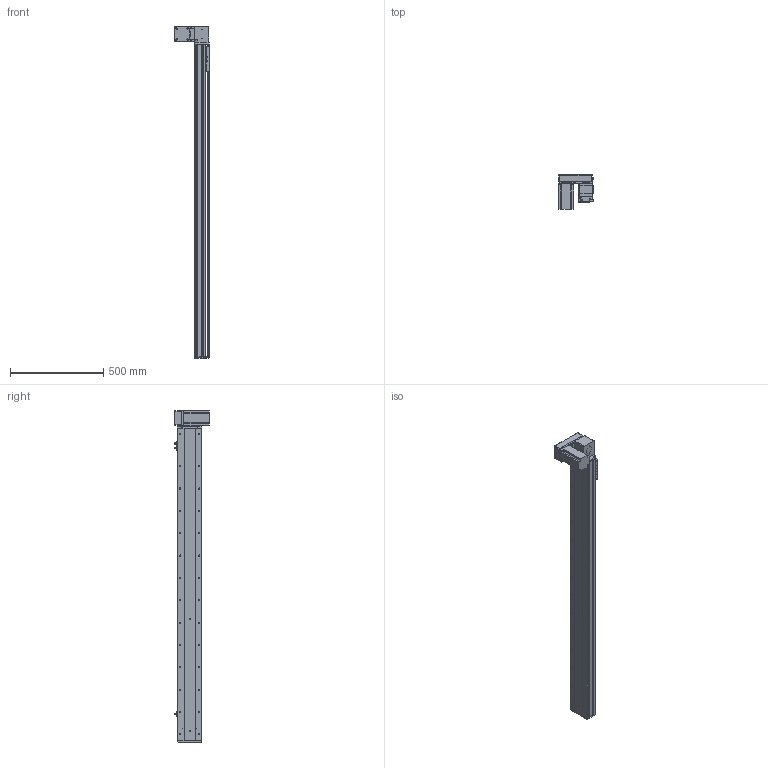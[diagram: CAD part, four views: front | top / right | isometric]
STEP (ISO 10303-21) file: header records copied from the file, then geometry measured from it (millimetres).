
FILE_DESCRIPTION (( 'STEP AP214' ), '1' );
FILE_NAME ('KSD130B-S1450-MRD-CM.STEP', '2019-11-16T01:12:57', ( '微软用户' ), ( '微软中国' ), 'SwSTEP 2.0', 'SolidWorks 2014', '' );
FILE_SCHEMA (( 'AUTOMOTIVE_DESIGN' ));
Length unit declared in the file: millimetre
Products named in the file (12): KSD130B-S1450-MRD-CM; 130宽模组保护罩上下左右折-同步带; 台达ECMA－C20807AS伺服电机; 130宽模组马达安装板连板上下折丝杆同步带; 覜茼え100遵圉猾敕; U倰嫖萇EEㄜSX672; 130宽盖板半封闭同步带-1450行程; 130宽马达安装板同步带右-改镜向_默认<按加工>; 130宽马达安装板同步带半封闭; 130宽同步带安装座半封闭; 130宽端盖同步带半封闭; 130宽底板半封闭同步带-1450行程
Assembly tree (13 placements, depth 2):
  KSD130B-S1450-MRD-CM
    130宽底板半封闭同步带-1450行程
    130宽端盖同步带半封闭
    130宽同步带安装座半封闭
    130宽马达安装板同步带半封闭
    130宽马达安装板同步带右-改镜向_默认<按加工>
    130宽盖板半封闭同步带-1450行程
    U倰嫖萇EEㄜSX672  x3
    覜茼え100遵圉猾敕
    130宽模组马达安装板连板上下折丝杆同步带
    台达ECMA－C20807AS伺服电机
    130宽模组保护罩上下左右折-同步带
Bounding box: 186 x 184.8 x 1783 mm (x, y, z)
Volume: 6180428.2 mm3; surface area: 1729071.9 mm2
Topology: 14 solids, 14 shells, 1645 faces, 4745 edges, 3011 vertices
Faces by surface type: cylinder 800, plane 638, cone 207
Entity records: 55179 total; most frequent: CARTESIAN_POINT 10460, DIRECTION 8359, ORIENTED_EDGE 8062, EDGE_CURVE 4031, AXIS2_PLACEMENT_3D 3070, VERTEX_POINT 2635, LINE 2219, VECTOR 2219
